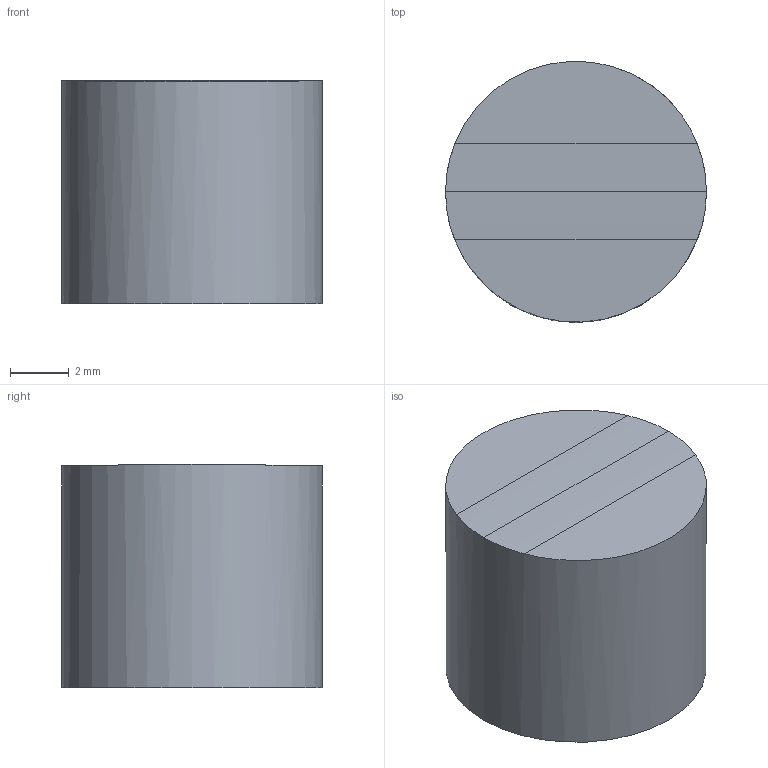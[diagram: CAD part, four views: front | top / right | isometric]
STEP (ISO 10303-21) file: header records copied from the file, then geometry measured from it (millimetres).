
FILE_DESCRIPTION(/* description */ ('Alibre Inc.'),/* implementation_level */ '2;1');
FILE_NAME(/* name */ 'export0',/* time_stamp */ '2011-07-18T12:09:18-04:00',/* author */ (''),/* organization */ (''),/* preprocessor_version */ 'ST-DEVELOPER v12',/* originating_system */ 'Alibre',/* authorisation */ '');
FILE_SCHEMA (('AUTOMOTIVE_DESIGN'));
Length unit declared in the file: centimetre
Bounding box: 8.89 x 8.89 x 7.62 mm (x, y, z)
Volume: 471.7 mm3; surface area: 336 mm2
Topology: 1 solids, 1 shells, 6 faces, 11 edges, 7 vertices
Faces by surface type: plane 3, bspline 2, cylinder 1
Full cylindrical faces by diameter (mm): 8.89 x1
Entity records: 213 total; most frequent: CARTESIAN_POINT 93, ORIENTED_EDGE 20, DIRECTION 14, EDGE_CURVE 10, VERTEX_POINT 7, EDGE_LOOP 7, FACE_BOUND 7, AXIS2_PLACEMENT_3D 7
